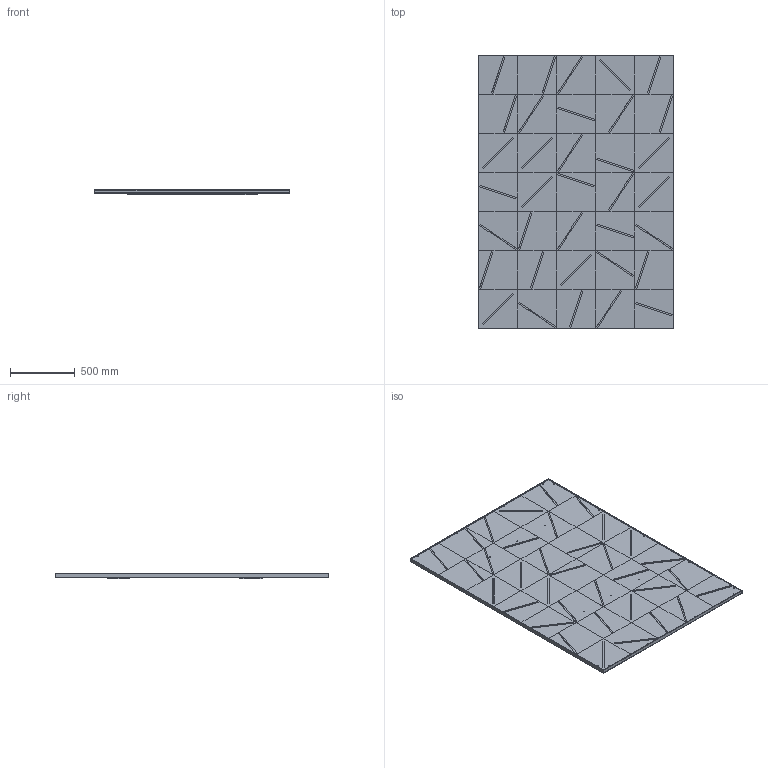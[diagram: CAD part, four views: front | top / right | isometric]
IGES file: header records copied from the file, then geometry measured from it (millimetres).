
Start section: SolidWorks IGES file using analytic representation for surfaces
Global section: file name: \\UTENTI\Dati Utenti\Tecnico\DC\2D - 3D per sito\3D\DeCastelli-3D-Yoko 01.igs; native system: SolidWorks 2022; preprocessor: SolidWorks 2022; author: Silviad; date: 240711.172732; units: millimetre
Bounding box: 1506 x 2106 x 42 mm (x, y, z)
Surface area: 10423929.7 mm2 (no closed solid volume)
Topology: 0 solids, 0 shells, 312 faces, 5222 edges, 5222 vertices
Faces by surface type: bspline 260, revolution 52
